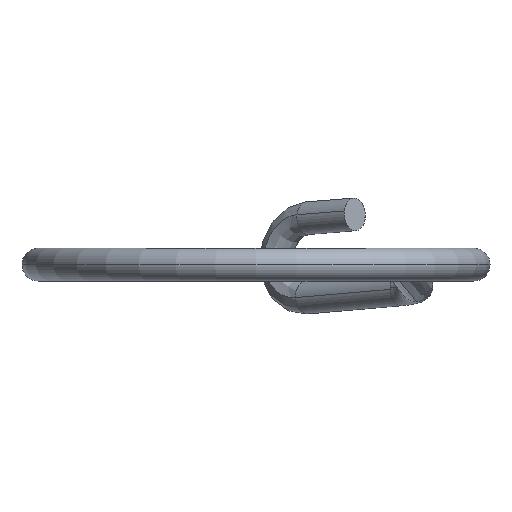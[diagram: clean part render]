
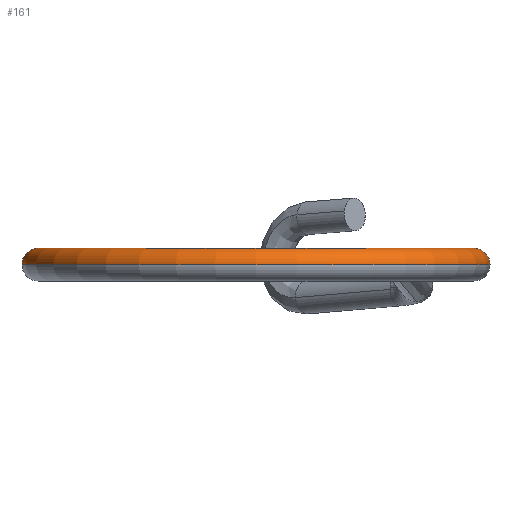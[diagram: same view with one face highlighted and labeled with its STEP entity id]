
A CAD part, front view. The second image highlights one B-rep face of the part: STEP entity #161.
In plain terms, the highlighted toroidal (fillet/blend) face has major radius 10.6 mm and minor radius 0.8 mm.
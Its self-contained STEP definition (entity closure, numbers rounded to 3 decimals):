
#69 = DIRECTION ( 'NONE',  ( 0., 0., 1. ) ) ;
#101 = CARTESIAN_POINT ( 'NONE',  ( 0., -31.719, 0. ) ) ;
#161 = ADVANCED_FACE ( 'NONE', ( #677 ), #1143, .T. ) ;
#183 = EDGE_CURVE ( 'NONE', #939, #1123, #1170, .T. ) ;
#198 = AXIS2_PLACEMENT_3D ( 'NONE', #956, #336, #1060 ) ;
#281 = CARTESIAN_POINT ( 'NONE',  ( 0., -31.719, 0. ) ) ;
#314 = ORIENTED_EDGE ( 'NONE', *, *, #1151, .T. ) ;
#321 = CARTESIAN_POINT ( 'NONE',  ( -10.6, -31.719, 0. ) ) ;
#323 = ORIENTED_EDGE ( 'NONE', *, *, #183, .F. ) ;
#336 = DIRECTION ( 'NONE',  ( 0., 0., 1. ) ) ;
#391 = DIRECTION ( 'NONE',  ( 1., 0., 0. ) ) ;
#407 = DIRECTION ( 'NONE',  ( 0., -1., 0. ) ) ;
#437 = DIRECTION ( 'NONE',  ( -1., 0., 0. ) ) ;
#481 = CARTESIAN_POINT ( 'NONE',  ( -11.4, -31.719, 0. ) ) ;
#516 = DIRECTION ( 'NONE',  ( 1., 0., 0. ) ) ;
#599 = CIRCLE ( 'NONE', #198, 11.4 ) ;
#613 = EDGE_LOOP ( 'NONE', ( #788, #1034, #314, #323 ) ) ;
#640 = CARTESIAN_POINT ( 'NONE',  ( -9.8, -31.719, 0. ) ) ;
#677 = FACE_OUTER_BOUND ( 'NONE', #613, .T. ) ;
#699 = AXIS2_PLACEMENT_3D ( 'NONE', #321, #1050, #437 ) ;
#707 = VERTEX_POINT ( 'NONE', #1171 ) ;
#776 = VERTEX_POINT ( 'NONE', #481 ) ;
#788 = ORIENTED_EDGE ( 'NONE', *, *, #983, .F. ) ;
#926 = CIRCLE ( 'NONE', #935, 0.8 ) ;
#935 = AXIS2_PLACEMENT_3D ( 'NONE', #1021, #407, #1119 ) ;
#939 = VERTEX_POINT ( 'NONE', #640 ) ;
#956 = CARTESIAN_POINT ( 'NONE',  ( 0., -31.719, 0. ) ) ;
#983 = EDGE_CURVE ( 'NONE', #776, #939, #1043, .T. ) ;
#1006 = DIRECTION ( 'NONE',  ( 0., 0., 1. ) ) ;
#1021 = CARTESIAN_POINT ( 'NONE',  ( 10.6, -31.719, 0. ) ) ;
#1034 = ORIENTED_EDGE ( 'NONE', *, *, #1233, .T. ) ;
#1043 = CIRCLE ( 'NONE', #699, 0.8 ) ;
#1050 = DIRECTION ( 'NONE',  ( 0., 1., 0. ) ) ;
#1060 = DIRECTION ( 'NONE',  ( 1., 0., 0. ) ) ;
#1119 = DIRECTION ( 'NONE',  ( 0., 0., -1. ) ) ;
#1123 = VERTEX_POINT ( 'NONE', #1185 ) ;
#1143 = TOROIDAL_SURFACE ( 'NONE', #1249, 10.6, 0.8 ) ;
#1151 = EDGE_CURVE ( 'NONE', #707, #1123, #926, .T. ) ;
#1170 = CIRCLE ( 'NONE', #1192, 9.8 ) ;
#1171 = CARTESIAN_POINT ( 'NONE',  ( 11.4, -31.719, 0. ) ) ;
#1185 = CARTESIAN_POINT ( 'NONE',  ( 9.8, -31.719, 0. ) ) ;
#1192 = AXIS2_PLACEMENT_3D ( 'NONE', #281, #1006, #391 ) ;
#1233 = EDGE_CURVE ( 'NONE', #776, #707, #599, .T. ) ;
#1249 = AXIS2_PLACEMENT_3D ( 'NONE', #101, #69, #516 ) ;
